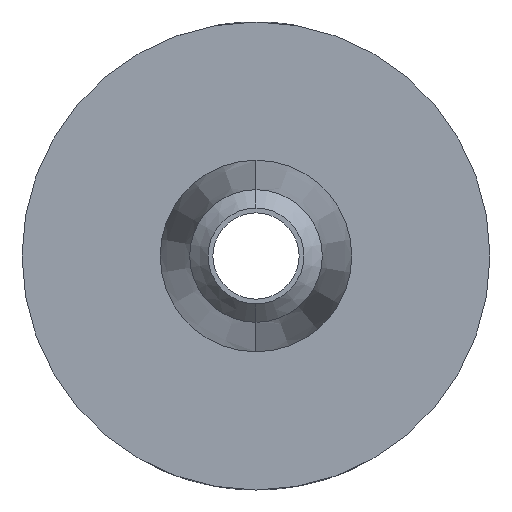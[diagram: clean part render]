
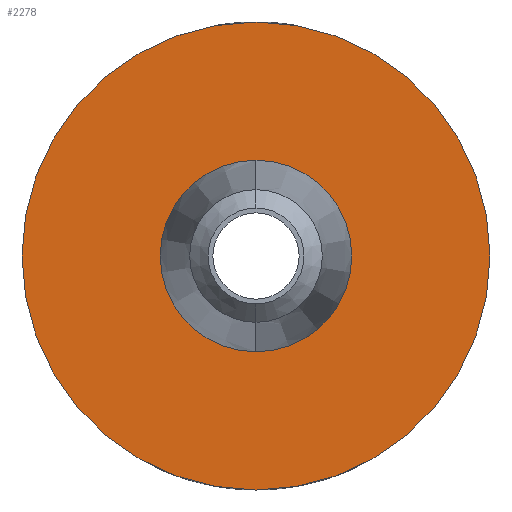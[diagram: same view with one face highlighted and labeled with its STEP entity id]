
A CAD part, left-side view. The second image highlights one B-rep face of the part: STEP entity #2278.
In plain terms, the highlighted planar face has unit normal (1, 0, 0).
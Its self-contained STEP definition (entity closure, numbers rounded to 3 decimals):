
#46=PLANE('',#2586);
#64=FACE_BOUND('',#275,.T.);
#121=CIRCLE('',#2587,3.175);
#122=CIRCLE('',#2588,1.3);
#187=FACE_OUTER_BOUND('',#274,.T.);
#274=EDGE_LOOP('',(#1863));
#275=EDGE_LOOP('',(#1864));
#1021=VERTEX_POINT('',#4304);
#1022=VERTEX_POINT('',#4306);
#1442=EDGE_CURVE('',#1021,#1021,#121,.T.);
#1443=EDGE_CURVE('',#1022,#1022,#122,.T.);
#1863=ORIENTED_EDGE('',*,*,#1442,.T.);
#1864=ORIENTED_EDGE('',*,*,#1443,.T.);
#2278=ADVANCED_FACE('',(#187,#64),#46,.T.);
#2586=AXIS2_PLACEMENT_3D('',#4303,#2827,#2828);
#2587=AXIS2_PLACEMENT_3D('',#4305,#2829,#2830);
#2588=AXIS2_PLACEMENT_3D('',#4307,#2831,#2832);
#2827=DIRECTION('center_axis',(1.,0.,0.));
#2828=DIRECTION('ref_axis',(0.,0.,-1.));
#2829=DIRECTION('center_axis',(1.,0.,0.));
#2830=DIRECTION('ref_axis',(0.,0.,-1.));
#2831=DIRECTION('center_axis',(-1.,0.,0.));
#2832=DIRECTION('ref_axis',(0.,0.,
-1.));
#4303=CARTESIAN_POINT('Origin',(-4.75,-3.213,0.));
#4304=CARTESIAN_POINT('',(-4.75,0.,3.175));
#4305=CARTESIAN_POINT('Origin',(-4.75,0.,0.));
#4306=CARTESIAN_POINT('',(-4.75,0.,1.3));
#4307=CARTESIAN_POINT('Origin',(-4.75,0.,0.));
